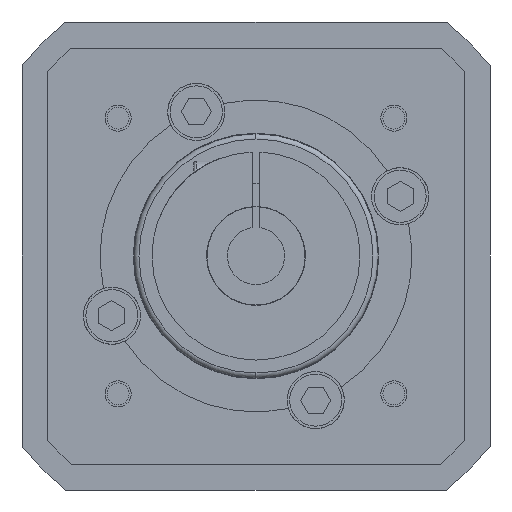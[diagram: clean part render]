
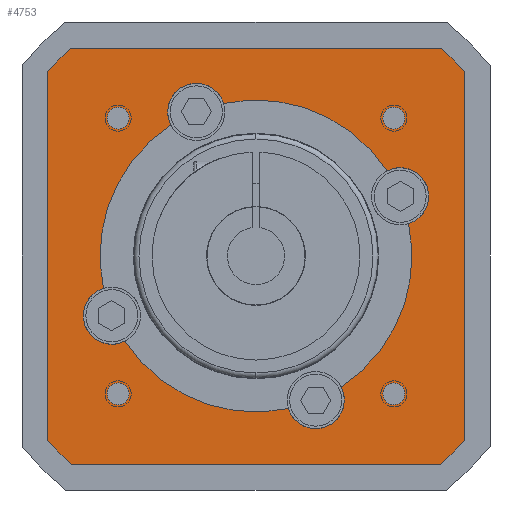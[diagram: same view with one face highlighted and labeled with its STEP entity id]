
A CAD part, left-side view. The second image highlights one B-rep face of the part: STEP entity #4753.
In plain terms, the highlighted planar face has unit normal (-1, 0, 0).
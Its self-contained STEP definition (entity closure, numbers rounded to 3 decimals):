
#863=CARTESIAN_POINT('',(-162.5,0.,0.));
#864=DIRECTION('',(-1.,0.,0.));
#865=DIRECTION('',(0.,-0.664,-0.748));
#866=AXIS2_PLACEMENT_3D('',#863,#864,#865);
#868=DIRECTION('',(0.,-1.,0.));
#869=VECTOR('',#868,71.056);
#870=CARTESIAN_POINT('',(-162.5,35.528,-40.));
#871=LINE('',#870,#869);
#872=CARTESIAN_POINT('',(-162.5,0.,0.));
#873=DIRECTION('',(-1.,0.,0.));
#874=DIRECTION('',(0.,0.748,-0.664));
#875=AXIS2_PLACEMENT_3D('',#872,#873,#874);
#877=DIRECTION('',(0.,0.,-1.));
#878=VECTOR('',#877,71.056);
#879=CARTESIAN_POINT('',(-162.5,40.,35.528));
#880=LINE('',#879,#878);
#881=CARTESIAN_POINT('',(-162.5,0.,0.));
#882=DIRECTION('',(-1.,0.,0.));
#883=DIRECTION('',(0.,0.664,0.748));
#884=AXIS2_PLACEMENT_3D('',#881,#882,#883);
#886=DIRECTION('',(0.,1.,0.));
#887=VECTOR('',#886,71.056);
#888=CARTESIAN_POINT('',(-162.5,-35.528,40.));
#889=LINE('',#888,#887);
#890=CARTESIAN_POINT('',(-162.5,0.,0.));
#891=DIRECTION('',(-1.,0.,0.));
#892=DIRECTION('',(0.,-0.748,0.664));
#893=AXIS2_PLACEMENT_3D('',#890,#891,#892);
#895=DIRECTION('',(0.,0.,1.));
#896=VECTOR('',#895,71.056);
#897=CARTESIAN_POINT('',(-162.5,-40.,-35.528));
#898=LINE('',#897,#896);
#899=CARTESIAN_POINT('',(-162.5,-26.517,-26.517));
#900=DIRECTION('',(-1.,0.,0.));
#901=DIRECTION('',(0.,1.,0.));
#902=AXIS2_PLACEMENT_3D('',#899,#900,#901);
#904=CARTESIAN_POINT('',(-162.5,-26.517,-26.517));
#905=DIRECTION('',(-1.,0.,0.));
#906=DIRECTION('',(0.,-1.,0.));
#907=AXIS2_PLACEMENT_3D('',#904,#905,#906);
#909=CARTESIAN_POINT('',(-162.5,26.517,-26.517));
#910=DIRECTION('',(-1.,0.,0.));
#911=DIRECTION('',(0.,1.,0.));
#912=AXIS2_PLACEMENT_3D('',#909,#910,#911);
#914=CARTESIAN_POINT('',(-162.5,26.517,-26.517));
#915=DIRECTION('',(-1.,0.,0.));
#916=DIRECTION('',(0.,-1.,0.));
#917=AXIS2_PLACEMENT_3D('',#914,#915,#916);
#919=CARTESIAN_POINT('',(-162.5,26.517,26.517));
#920=DIRECTION('',(-1.,0.,0.));
#921=DIRECTION('',(0.,1.,0.));
#922=AXIS2_PLACEMENT_3D('',#919,#920,#921);
#924=CARTESIAN_POINT('',(-162.5,26.517,26.517));
#925=DIRECTION('',(-1.,0.,0.));
#926=DIRECTION('',(0.,-1.,0.));
#927=AXIS2_PLACEMENT_3D('',#924,#925,#926);
#929=CARTESIAN_POINT('',(-162.5,-26.517,26.517));
#930=DIRECTION('',(-1.,0.,0.));
#931=DIRECTION('',(0.,1.,0.));
#932=AXIS2_PLACEMENT_3D('',#929,#930,#931);
#934=CARTESIAN_POINT('',(-162.5,-26.517,26.517));
#935=DIRECTION('',(-1.,0.,0.));
#936=DIRECTION('',(0.,-1.,0.));
#937=AXIS2_PLACEMENT_3D('',#934,#935,#936);
#939=CARTESIAN_POINT('',(-162.5,-11.481,-27.716));
#940=DIRECTION('',(-1.,0.,0.));
#941=DIRECTION('',(0.,-1.,0.));
#942=AXIS2_PLACEMENT_3D('',#939,#940,#941);
#944=CARTESIAN_POINT('',(-162.5,-27.716,11.481));
#945=DIRECTION('',(-1.,0.,0.));
#946=DIRECTION('',(0.,-0.296,-0.955));
#947=AXIS2_PLACEMENT_3D('',#944,#945,#946);
#949=CARTESIAN_POINT('',(-162.5,-27.716,11.481));
#950=DIRECTION('',(-1.,0.,0.));
#951=DIRECTION('',(0.,-1.,0.));
#952=AXIS2_PLACEMENT_3D('',#949,#950,#951);
#954=CARTESIAN_POINT('',(-162.5,11.481,27.716));
#955=DIRECTION('',(-1.,0.,0.));
#956=DIRECTION('',(0.,-0.955,0.296));
#957=AXIS2_PLACEMENT_3D('',#954,#955,#956);
#959=CARTESIAN_POINT('',(-162.5,11.481,27.716));
#960=DIRECTION('',(-1.,0.,0.));
#961=DIRECTION('',(0.,1.,0.));
#962=AXIS2_PLACEMENT_3D('',#959,#960,#961);
#964=CARTESIAN_POINT('',(-162.5,27.716,-11.481));
#965=DIRECTION('',(-1.,0.,0.));
#966=DIRECTION('',(0.,0.296,0.955));
#967=AXIS2_PLACEMENT_3D('',#964,#965,#966);
#969=CARTESIAN_POINT('',(-162.5,27.716,-11.481));
#970=DIRECTION('',(-1.,0.,0.));
#971=DIRECTION('',(0.,1.,0.));
#972=AXIS2_PLACEMENT_3D('',#969,#970,#971);
#974=CARTESIAN_POINT('',(-162.5,-11.481,-27.716));
#975=DIRECTION('',(-1.,0.,0.));
#976=DIRECTION('',(0.,0.955,-0.296));
#977=AXIS2_PLACEMENT_3D('',#974,#975,#976);
#1659=CARTESIAN_POINT('',(-162.5,0.,0.));
#1660=DIRECTION('',(-1.,0.,0.));
#1661=DIRECTION('',(0.,-0.545,-0.838));
#1662=AXIS2_PLACEMENT_3D('',#1659,#1660,#1661);
#1673=CARTESIAN_POINT('',(-162.5,0.,0.));
#1674=DIRECTION('',(1.,0.,0.));
#1675=DIRECTION('',(0.,-0.208,-0.978));
#1676=AXIS2_PLACEMENT_3D('',#1673,#1674,#1675);
#1686=CARTESIAN_POINT('',(-162.5,0.,0.));
#1687=DIRECTION('',(1.,0.,0.));
#1688=DIRECTION('',(0.,0.978,-0.208));
#1689=AXIS2_PLACEMENT_3D('',#1686,#1687,#1688);
#1695=CARTESIAN_POINT('',(-162.5,0.,0.));
#1696=DIRECTION('',(1.,0.,0.));
#1697=DIRECTION('',(0.,0.208,0.978));
#1698=AXIS2_PLACEMENT_3D('',#1695,#1696,#1697);
#3039=CARTESIAN_POINT('',(-162.5,-35.528,-40.));
#3040=CARTESIAN_POINT('',(-162.5,-40.,-35.528));
#3041=VERTEX_POINT('',#3039);
#3042=VERTEX_POINT('',#3040);
#3043=CARTESIAN_POINT('',(-162.5,-40.,35.528));
#3044=VERTEX_POINT('',#3043);
#3045=CARTESIAN_POINT('',(-162.5,-35.528,40.));
#3046=VERTEX_POINT('',#3045);
#3047=CARTESIAN_POINT('',(-162.5,35.528,40.));
#3048=VERTEX_POINT('',#3047);
#3049=CARTESIAN_POINT('',(-162.5,40.,35.528));
#3050=VERTEX_POINT('',#3049);
#3051=CARTESIAN_POINT('',(-162.5,40.,-35.528));
#3052=VERTEX_POINT('',#3051);
#3053=CARTESIAN_POINT('',(-162.5,35.528,-40.));
#3054=VERTEX_POINT('',#3053);
#3103=CARTESIAN_POINT('',(-162.5,-24.417,-26.517));
#3104=VERTEX_POINT('',#3103);
#3105=CARTESIAN_POINT('',(-162.5,-28.617,-26.517));
#3106=VERTEX_POINT('',#3105);
#3107=CARTESIAN_POINT('',(-162.5,28.617,-26.517));
#3108=VERTEX_POINT('',#3107);
#3109=CARTESIAN_POINT('',(-162.5,24.417,-26.517));
#3110=VERTEX_POINT('',#3109);
#3111=CARTESIAN_POINT('',(-162.5,28.617,26.517));
#3112=VERTEX_POINT('',#3111);
#3113=CARTESIAN_POINT('',(-162.5,24.417,26.517));
#3114=VERTEX_POINT('',#3113);
#3115=CARTESIAN_POINT('',(-162.5,-24.417,26.517));
#3116=VERTEX_POINT('',#3115);
#3117=CARTESIAN_POINT('',(-162.5,-28.617,26.517));
#3118=VERTEX_POINT('',#3117);
#3307=CARTESIAN_POINT('',(-162.5,-16.981,-27.716));
#3308=CARTESIAN_POINT('',(-162.5,-16.348,-25.155));
#3309=VERTEX_POINT('',#3307);
#3310=VERTEX_POINT('',#3308);
#3311=CARTESIAN_POINT('',(-162.5,33.216,-11.481));
#3312=CARTESIAN_POINT('',(-162.5,25.155,-16.348));
#3313=VERTEX_POINT('',#3311);
#3314=VERTEX_POINT('',#3312);
#3315=CARTESIAN_POINT('',(-162.5,29.346,-6.228));
#3316=VERTEX_POINT('',#3315);
#3317=CARTESIAN_POINT('',(-162.5,16.981,27.716));
#3318=CARTESIAN_POINT('',(-162.5,16.348,25.155));
#3319=VERTEX_POINT('',#3317);
#3320=VERTEX_POINT('',#3318);
#3321=CARTESIAN_POINT('',(-162.5,-29.346,6.228));
#3322=CARTESIAN_POINT('',(-162.5,-33.216,11.481));
#3323=VERTEX_POINT('',#3321);
#3324=VERTEX_POINT('',#3322);
#3325=CARTESIAN_POINT('',(-162.5,-25.155,16.348));
#3326=VERTEX_POINT('',#3325);
#3379=CARTESIAN_POINT('',(-162.5,6.228,29.346));
#3380=VERTEX_POINT('',#3379);
#3385=CARTESIAN_POINT('',(-162.5,-6.228,-29.346));
#3386=VERTEX_POINT('',#3385);
#4688=CARTESIAN_POINT('',(-162.5,0.,0.));
#4689=DIRECTION('',(1.,0.,0.));
#4690=DIRECTION('',(0.,0.,1.));
#4691=AXIS2_PLACEMENT_3D('',#4688,#4689,#4690);
#4692=PLANE('',#4691);
#4693=ORIENTED_EDGE('',*,*,#4590,.F.);
#4694=ORIENTED_EDGE('',*,*,#4604,.F.);
#4695=ORIENTED_EDGE('',*,*,#4619,.F.);
#4696=ORIENTED_EDGE('',*,*,#4633,.F.);
#4697=ORIENTED_EDGE('',*,*,#4654,.F.);
#4698=ORIENTED_EDGE('',*,*,#4668,.F.);
#4699=ORIENTED_EDGE('',*,*,#4682,.F.);
#4700=ORIENTED_EDGE('',*,*,#4574,.F.);
#4701=EDGE_LOOP('',(#4693,#4694,#4695,#4696,#4697,#4698,#4699,#4700));
#4702=FACE_OUTER_BOUND('',#4701,.F.);
#4704=ORIENTED_EDGE('',*,*,#4703,.T.);
#4706=ORIENTED_EDGE('',*,*,#4705,.T.);
#4707=EDGE_LOOP('',(#4704,#4706));
#4708=FACE_BOUND('',#4707,.F.);
#4710=ORIENTED_EDGE('',*,*,#4709,.T.);
#4712=ORIENTED_EDGE('',*,*,#4711,.T.);
#4713=EDGE_LOOP('',(#4710,#4712));
#4714=FACE_BOUND('',#4713,.F.);
#4716=ORIENTED_EDGE('',*,*,#4715,.T.);
#4718=ORIENTED_EDGE('',*,*,#4717,.T.);
#4719=EDGE_LOOP('',(#4716,#4718));
#4720=FACE_BOUND('',#4719,.F.);
#4722=ORIENTED_EDGE('',*,*,#4721,.T.);
#4724=ORIENTED_EDGE('',*,*,#4723,.T.);
#4725=EDGE_LOOP('',(#4722,#4724));
#4726=FACE_BOUND('',#4725,.F.);
#4728=ORIENTED_EDGE('',*,*,#4727,.T.);
#4730=ORIENTED_EDGE('',*,*,#4729,.T.);
#4732=ORIENTED_EDGE('',*,*,#4731,.T.);
#4734=ORIENTED_EDGE('',*,*,#4733,.T.);
#4736=ORIENTED_EDGE('',*,*,#4735,.F.);
#4738=ORIENTED_EDGE('',*,*,#4737,.T.);
#4740=ORIENTED_EDGE('',*,*,#4739,.T.);
#4742=ORIENTED_EDGE('',*,*,#4741,.F.);
#4744=ORIENTED_EDGE('',*,*,#4743,.T.);
#4746=ORIENTED_EDGE('',*,*,#4745,.T.);
#4748=ORIENTED_EDGE('',*,*,#4747,.F.);
#4750=ORIENTED_EDGE('',*,*,#4749,.T.);
#4751=EDGE_LOOP('',(#4728,#4730,#4732,#4734,#4736,#4738,#4740,#4742,#4744,#4746,
#4748,#4750));
#4752=FACE_BOUND('',#4751,.F.);
#867=CIRCLE('',#866,53.5);
#876=CIRCLE('',#875,53.5);
#885=CIRCLE('',#884,53.5);
#894=CIRCLE('',#893,53.5);
#903=CIRCLE('',#902,2.1);
#908=CIRCLE('',#907,2.1);
#913=CIRCLE('',#912,2.1);
#918=CIRCLE('',#917,2.1);
#923=CIRCLE('',#922,2.1);
#928=CIRCLE('',#927,2.1);
#933=CIRCLE('',#932,2.1);
#938=CIRCLE('',#937,2.1);
#943=CIRCLE('',#942,5.5);
#948=CIRCLE('',#947,5.5);
#953=CIRCLE('',#952,5.5);
#958=CIRCLE('',#957,5.5);
#963=CIRCLE('',#962,5.5);
#968=CIRCLE('',#967,5.5);
#973=CIRCLE('',#972,5.5);
#978=CIRCLE('',#977,5.5);
#1663=CIRCLE('',#1662,30.);
#1677=CIRCLE('',#1676,30.);
#1690=CIRCLE('',#1689,30.);
#1699=CIRCLE('',#1698,30.);
#4574=EDGE_CURVE('',#3042,#3044,#898,.T.);
#4590=EDGE_CURVE('',#3041,#3042,#867,.T.);
#4604=EDGE_CURVE('',#3054,#3041,#871,.T.);
#4619=EDGE_CURVE('',#3052,#3054,#876,.T.);
#4633=EDGE_CURVE('',#3050,#3052,#880,.T.);
#4654=EDGE_CURVE('',#3048,#3050,#885,.T.);
#4668=EDGE_CURVE('',#3046,#3048,#889,.T.);
#4682=EDGE_CURVE('',#3044,#3046,#894,.T.);
#4703=EDGE_CURVE('',#3104,#3106,#903,.T.);
#4705=EDGE_CURVE('',#3106,#3104,#908,.T.);
#4709=EDGE_CURVE('',#3108,#3110,#913,.T.);
#4711=EDGE_CURVE('',#3110,#3108,#918,.T.);
#4715=EDGE_CURVE('',#3112,#3114,#923,.T.);
#4717=EDGE_CURVE('',#3114,#3112,#928,.T.);
#4721=EDGE_CURVE('',#3116,#3118,#933,.T.);
#4723=EDGE_CURVE('',#3118,#3116,#938,.T.);
#4727=EDGE_CURVE('',#3309,#3310,#943,.T.);
#4729=EDGE_CURVE('',#3310,#3323,#1663,.T.);
#4731=EDGE_CURVE('',#3323,#3324,#948,.T.);
#4733=EDGE_CURVE('',#3324,#3326,#953,.T.);
#4735=EDGE_CURVE('',#3380,#3326,#1699,.T.);
#4737=EDGE_CURVE('',#3380,#3319,#958,.T.);
#4739=EDGE_CURVE('',#3319,#3320,#963,.T.);
#4741=EDGE_CURVE('',#3316,#3320,#1690,.T.);
#4743=EDGE_CURVE('',#3316,#3313,#968,.T.);
#4745=EDGE_CURVE('',#3313,#3314,#973,.T.);
#4747=EDGE_CURVE('',#3386,#3314,#1677,.T.);
#4749=EDGE_CURVE('',#3386,#3309,#978,.T.);
#4753=ADVANCED_FACE('',(#4702,#4708,#4714,#4720,#4726,#4752),#4692,.F.);
